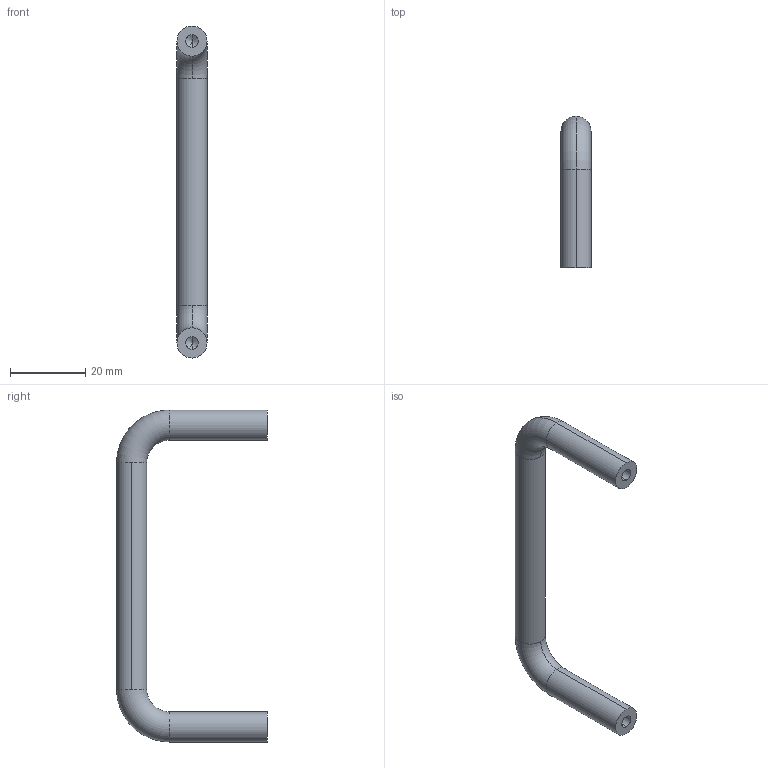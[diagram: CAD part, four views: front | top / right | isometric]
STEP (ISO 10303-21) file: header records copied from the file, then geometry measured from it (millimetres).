
FILE_DESCRIPTION (( 'STEP AP203' ), '1' );
FILE_NAME ('E03-503080.STEP', '2023-04-20T06:39:50', ( '' ), ( '' ), 'SwSTEP 2.0', 'SolidWorks 2021', '' );
FILE_SCHEMA (( 'CONFIG_CONTROL_DESIGN' ));
Length unit declared in the file: millimetre
Products named in the file (1): E03-503080
Bounding box: 8 x 40 x 88 mm (x, y, z)
Volume: 7006.5 mm3; surface area: 3946.3 mm2
Topology: 1 solids, 1 shells, 20 faces, 46 edges, 26 vertices
Faces by surface type: cylinder 10, torus 4, cone 4, plane 2
Entity records: 623 total; most frequent: DIRECTION 112, CARTESIAN_POINT 89, ORIENTED_EDGE 84, AXIS2_PLACEMENT_3D 49, EDGE_CURVE 42, CIRCLE 28, VERTEX_POINT 26, EDGE_LOOP 22
